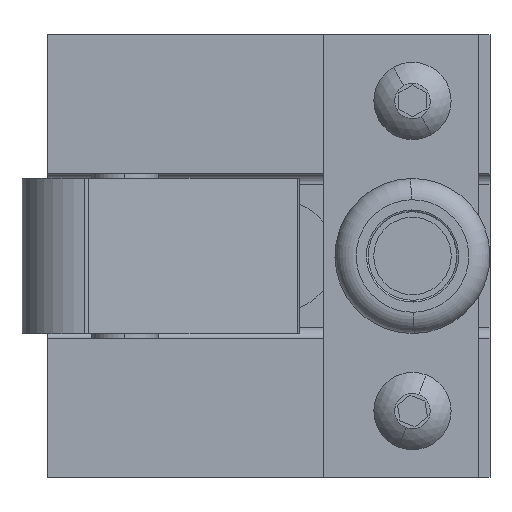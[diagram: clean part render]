
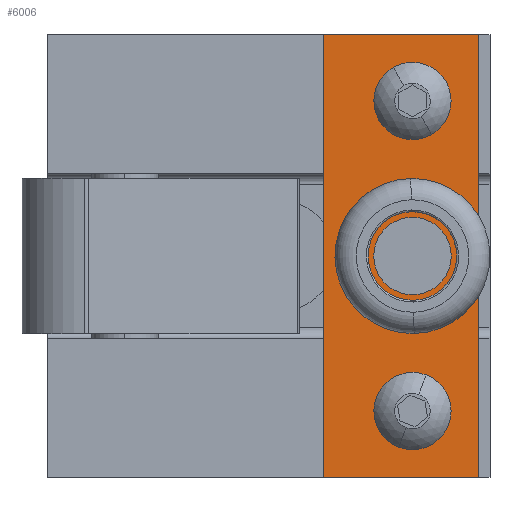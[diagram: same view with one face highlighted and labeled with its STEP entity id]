
A CAD part, left-side view. The second image highlights one B-rep face of the part: STEP entity #6006.
In plain terms, the highlighted planar face has unit normal (-1, 0, 0).
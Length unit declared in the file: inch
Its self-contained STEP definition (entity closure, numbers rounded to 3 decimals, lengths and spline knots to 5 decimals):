
#1577 = PLANE ( 'NONE',  #1585 ) ;
#1579 = FACE_BOUND ( 'NONE', #5887, .T. ) ;
#1580 = FACE_BOUND ( 'NONE', #5997, .T. ) ;
#1581 = CARTESIAN_POINT ( 'NONE',  ( -0.5, 0.875, 1.25 ) ) ;
#1582 = DIRECTION ( 'NONE',  ( 0., 0., 1. ) ) ;
#1583 = DIRECTION ( 'NONE',  ( -1., 0., 0. ) ) ;
#1584 = CARTESIAN_POINT ( 'NONE',  ( -0.5, 0., -1.25 ) ) ;
#1585 = AXIS2_PLACEMENT_3D ( 'NONE', #1584, #1583, #1582 ) ;
#1587 = FACE_OUTER_BOUND ( 'NONE', #5707, .T. ) ;
#1588 = FACE_BOUND ( 'NONE', #5905, .T. ) ;
#1590 = DIRECTION ( 'NONE',  ( 0., 0., 1. ) ) ;
#1591 = VECTOR ( 'NONE', #1590, 39.37008 ) ;
#1592 = CARTESIAN_POINT ( 'NONE',  ( -0.5, 0., -1.25 ) ) ;
#1593 = LINE ( 'NONE', #1592, #1591 ) ;
#1603 = DIRECTION ( 'NONE',  ( 0., 0., 1. ) ) ;
#1604 = DIRECTION ( 'NONE',  ( -1., 0., 0. ) ) ;
#1605 = CARTESIAN_POINT ( 'NONE',  ( -0.5, 0.375, 0. ) ) ;
#1606 = AXIS2_PLACEMENT_3D ( 'NONE', #1605, #1604, #1603 ) ;
#1607 = CIRCLE ( 'NONE', #1606, 0.21875 ) ;
#1608 = DIRECTION ( 'NONE',  ( 0., 0., 1. ) ) ;
#1609 = DIRECTION ( 'NONE',  ( -1., 0., 0. ) ) ;
#1610 = CARTESIAN_POINT ( 'NONE',  ( -0.5, 0.375, 0.875 ) ) ;
#1621 = CIRCLE ( 'NONE', #1626, 0.14062 ) ;
#1626 = AXIS2_PLACEMENT_3D ( 'NONE', #1610, #1609, #1608 ) ;
#5425 = VERTEX_POINT ( 'NONE', #21487 ) ;
#5582 = VERTEX_POINT ( 'NONE', #21760 ) ;
#5675 = VERTEX_POINT ( 'NONE', #21697 ) ;
#5684 = VERTEX_POINT ( 'NONE', #21685 ) ;
#5703 = ORIENTED_EDGE ( 'NONE', *, *, #5704, .F. ) ;
#5704 = EDGE_CURVE ( 'NONE', #5751, #5746, #21670, .T. ) ;
#5705 = ORIENTED_EDGE ( 'NONE', *, *, #5781, .F. ) ;
#5707 = EDGE_LOOP ( 'NONE', ( #6023, #5871, #5867, #5876 ) ) ;
#5746 = VERTEX_POINT ( 'NONE', #21658 ) ;
#5751 = VERTEX_POINT ( 'NONE', #21652 ) ;
#5760 = EDGE_CURVE ( 'NONE', #5825, #5768, #21127, .T. ) ;
#5768 = VERTEX_POINT ( 'NONE', #21879 ) ;
#5771 = EDGE_CURVE ( 'NONE', #5425, #5582, #21796, .T. ) ;
#5781 = EDGE_CURVE ( 'NONE', #5746, #5751, #21851, .T. ) ;
#5825 = VERTEX_POINT ( 'NONE', #21962 ) ;
#5867 = ORIENTED_EDGE ( 'NONE', *, *, #5890, .F. ) ;
#5871 = ORIENTED_EDGE ( 'NONE', *, *, #5873, .F. ) ;
#5873 = EDGE_CURVE ( 'NONE', #6009, #5889, #21891, .T. ) ;
#5876 = ORIENTED_EDGE ( 'NONE', *, *, #5878, .T. ) ;
#5878 = EDGE_CURVE ( 'NONE', #5684, #5675, #21887, .T. ) ;
#5886 = ORIENTED_EDGE ( 'NONE', *, *, #5771, .F. ) ;
#5887 = EDGE_LOOP ( 'NONE', ( #6038, #6040 ) ) ;
#5889 = VERTEX_POINT ( 'NONE', #21880 ) ;
#5890 = EDGE_CURVE ( 'NONE', #5684, #6009, #21932, .T. ) ;
#5905 = EDGE_LOOP ( 'NONE', ( #5703, #5705 ) ) ;
#5997 = EDGE_LOOP ( 'NONE', ( #5999, #5886 ) ) ;
#5999 = ORIENTED_EDGE ( 'NONE', *, *, #6010, .F. ) ;
#6006 = ADVANCED_FACE ( 'NONE', ( #1580, #1579, #1588, #1587 ), #1577, .T. ) ;
#6009 = VERTEX_POINT ( 'NONE', #1581 ) ;
#6010 = EDGE_CURVE ( 'NONE', #5582, #5425, #1607, .T. ) ;
#6017 = EDGE_CURVE ( 'NONE', #5675, #5889, #1593, .T. ) ;
#6023 = ORIENTED_EDGE ( 'NONE', *, *, #6017, .T. ) ;
#6038 = ORIENTED_EDGE ( 'NONE', *, *, #6039, .F. ) ;
#6039 = EDGE_CURVE ( 'NONE', #5768, #5825, #1621, .T. ) ;
#6040 = ORIENTED_EDGE ( 'NONE', *, *, #5760, .F. ) ;
#21127 = CIRCLE ( 'NONE', #21227, 0.14062 ) ;
#21227 = AXIS2_PLACEMENT_3D ( 'NONE', #21249, #21593, #21801 ) ;
#21249 = CARTESIAN_POINT ( 'NONE',  ( -0.5, 0.375, 0.875 ) ) ;
#21487 = CARTESIAN_POINT ( 'NONE',  ( -0.5, 0.375, -0.21875 ) ) ;
#21593 = DIRECTION ( 'NONE',  ( -1., 0., 0. ) ) ;
#21652 = CARTESIAN_POINT ( 'NONE',  ( -0.5, 0.375, -0.73438 ) ) ;
#21658 = CARTESIAN_POINT ( 'NONE',  ( -0.5, 0.375, -1.01563 ) ) ;
#21666 = DIRECTION ( 'NONE',  ( 0., 0., 1. ) ) ;
#21667 = DIRECTION ( 'NONE',  ( -1., 0., 0. ) ) ;
#21668 = CARTESIAN_POINT ( 'NONE',  ( -0.5, 0.375, -0.875 ) ) ;
#21669 = AXIS2_PLACEMENT_3D ( 'NONE', #21668, #21667, #21666 ) ;
#21670 = CIRCLE ( 'NONE', #21669, 0.14062 ) ;
#21685 = CARTESIAN_POINT ( 'NONE',  ( -0.5, 0.875, -1.25 ) ) ;
#21697 = CARTESIAN_POINT ( 'NONE',  ( -0.5, 0., -1.25 ) ) ;
#21760 = CARTESIAN_POINT ( 'NONE',  ( -0.5, 0.375, 0.21875 ) ) ;
#21794 = DIRECTION ( 'NONE',  ( 0., 0., 1. ) ) ;
#21795 = DIRECTION ( 'NONE',  ( -1., 0., 0. ) ) ;
#21796 = CIRCLE ( 'NONE', #21852, 0.21875 ) ;
#21798 = CARTESIAN_POINT ( 'NONE',  ( -0.5, 0.375, -0.875 ) ) ;
#21801 = DIRECTION ( 'NONE',  ( 0., 0., 1. ) ) ;
#21850 = AXIS2_PLACEMENT_3D ( 'NONE', #21798, #21795, #21794 ) ;
#21851 = CIRCLE ( 'NONE', #21850, 0.14062 ) ;
#21852 = AXIS2_PLACEMENT_3D ( 'NONE', #21853, #21898, #21897 ) ;
#21853 = CARTESIAN_POINT ( 'NONE',  ( -0.5, 0.375, 0. ) ) ;
#21879 = CARTESIAN_POINT ( 'NONE',  ( -0.5, 0.375, 1.01562 ) ) ;
#21880 = CARTESIAN_POINT ( 'NONE',  ( -0.5, 0., 1.25 ) ) ;
#21884 = DIRECTION ( 'NONE',  ( 0., -1., 0. ) ) ;
#21885 = VECTOR ( 'NONE', #21884, 39.37008 ) ;
#21886 = CARTESIAN_POINT ( 'NONE',  ( -0.5, 0., -1.25 ) ) ;
#21887 = LINE ( 'NONE', #21886, #21885 ) ;
#21888 = DIRECTION ( 'NONE',  ( 0., -1., 0. ) ) ;
#21889 = VECTOR ( 'NONE', #21888, 39.37008 ) ;
#21890 = CARTESIAN_POINT ( 'NONE',  ( -0.5, 0., 1.25 ) ) ;
#21891 = LINE ( 'NONE', #21890, #21889 ) ;
#21897 = DIRECTION ( 'NONE',  ( 0., 0., 1. ) ) ;
#21898 = DIRECTION ( 'NONE',  ( -1., 0., 0. ) ) ;
#21929 = DIRECTION ( 'NONE',  ( 0., 0., 1. ) ) ;
#21930 = VECTOR ( 'NONE', #21929, 39.37008 ) ;
#21931 = CARTESIAN_POINT ( 'NONE',  ( -0.5, 0.875, -1.25 ) ) ;
#21932 = LINE ( 'NONE', #21931, #21930 ) ;
#21962 = CARTESIAN_POINT ( 'NONE',  ( -0.5, 0.375, 0.73438 ) ) ;
